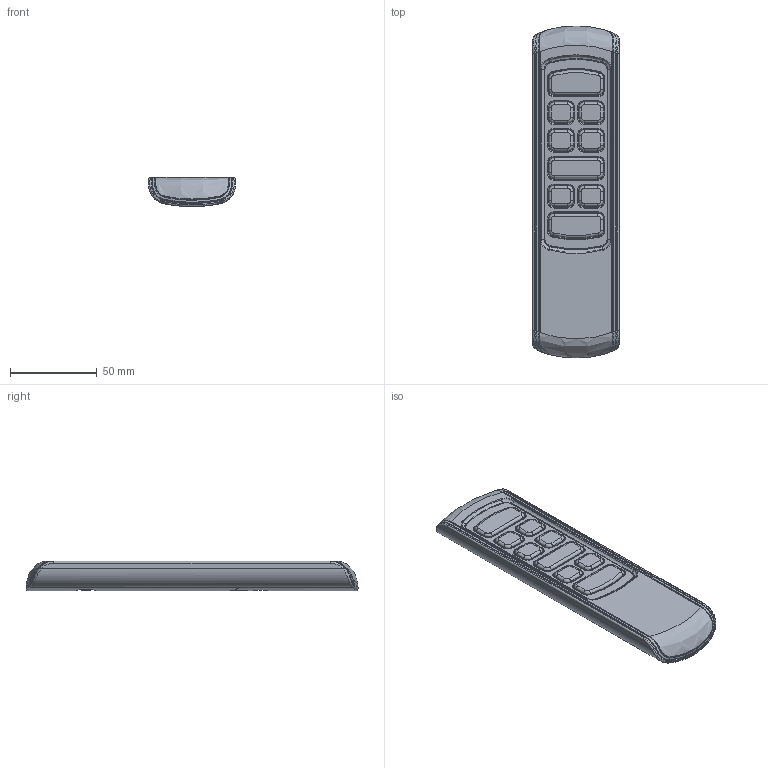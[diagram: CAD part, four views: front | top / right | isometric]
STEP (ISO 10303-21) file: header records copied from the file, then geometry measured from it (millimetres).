
FILE_DESCRIPTION (( 'STEP AP203' ), '1' );
FILE_NAME ('TFH26.STEP', '2019-09-02T02:56:35', ( '' ), ( '' ), 'SwSTEP 2.0', 'SolidWorks 2015', '' );
FILE_SCHEMA (( 'CONFIG_CONTROL_DESIGN' ));
Length unit declared in the file: millimetre
Products named in the file (1): TFH26
Bounding box: 50 x 190.91 x 16.79 mm (x, y, z)
Volume: 63303.9 mm3; surface area: 75248.2 mm2
Topology: 6 solids, 6 shells, 3017 faces, 7746 edges, 4796 vertices
Faces by surface type: plane 1625, cylinder 777, bspline 246, cone 173, torus 166, sphere 30
Full cylindrical faces by diameter (mm): 1 x6, 1.1 x6, 1.5 x2, 1.7 x1, 3.2 x1, 3.5 x4, 3.8 x6, 5.6 x1
Entity records: 111838 total; most frequent: CARTESIAN_POINT 40850, ORIENTED_EDGE 15360, DIRECTION 13977, EDGE_CURVE 7680, VERTEX_POINT 4771, VECTOR 4699, LINE 4699, AXIS2_PLACEMENT_3D 4639
